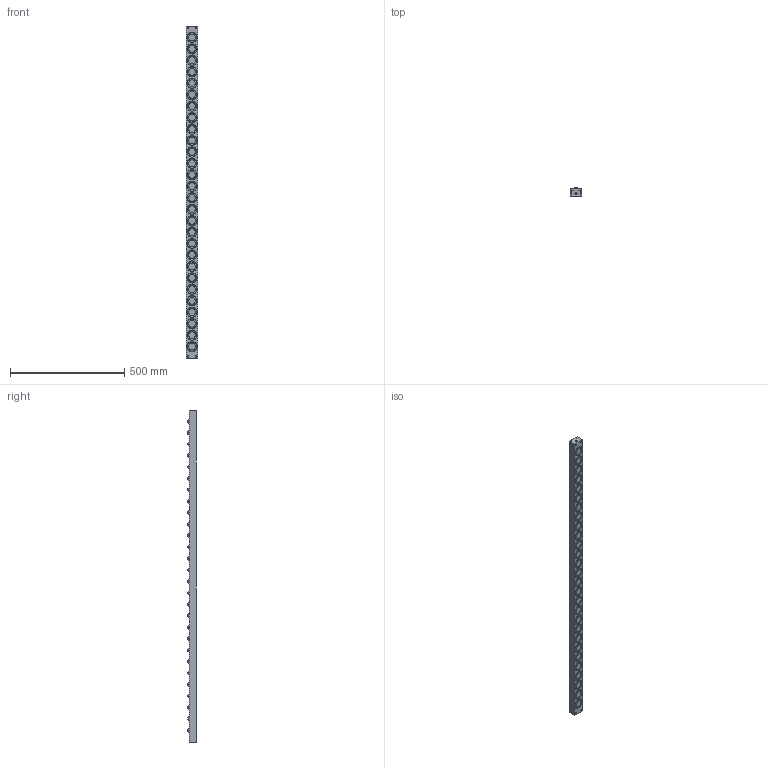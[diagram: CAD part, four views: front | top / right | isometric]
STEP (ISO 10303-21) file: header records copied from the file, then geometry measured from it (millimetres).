
FILE_DESCRIPTION (( 'STEP AP203' ), '1' );
FILE_NAME ('PVL55SL-28.STEP', '2016-02-18T07:31:08', ( '' ), ( '' ), 'SwSTEP 2.0', 'SolidWorks 2013', '' );
FILE_SCHEMA (( 'CONFIG_CONTROL_DESIGN' ));
Length unit declared in the file: millimetre
Products named in the file (1): PVL55SL-28
Bounding box: 49 x 38 x 1450 mm (x, y, z)
Volume: 2244762.3 mm3; surface area: 314590.4 mm2
Topology: 1 solids, 1 shells, 1125 faces, 2792 edges, 1869 vertices
Faces by surface type: cylinder 746, plane 319, sphere 56, cone 4
Entity records: 34549 total; most frequent: DIRECTION 6818, CARTESIAN_POINT 5785, ORIENTED_EDGE 5580, AXIS2_PLACEMENT_3D 2902, EDGE_CURVE 2790, VERTEX_POINT 1869, CIRCLE 1776, EDGE_LOOP 1335
